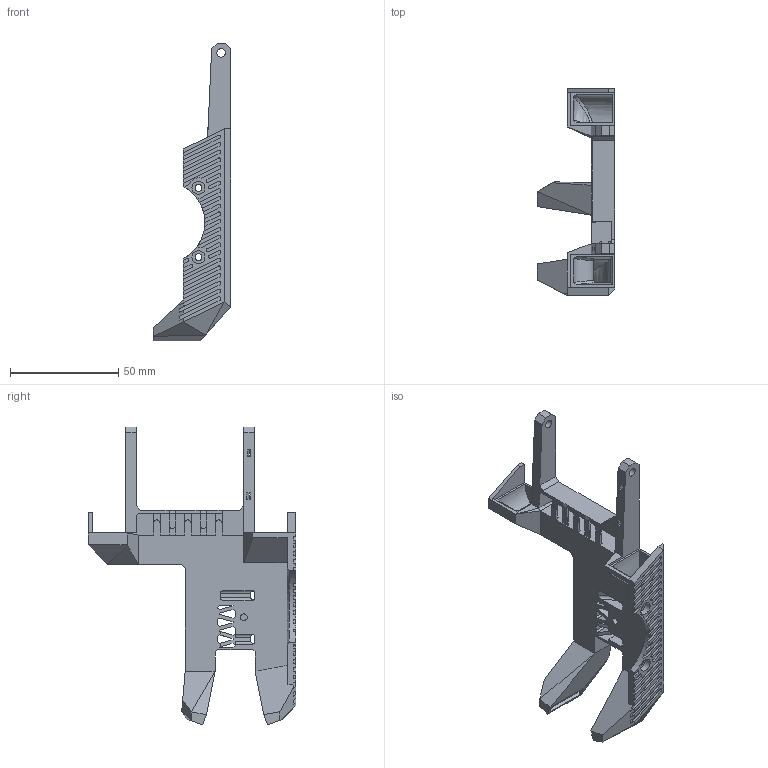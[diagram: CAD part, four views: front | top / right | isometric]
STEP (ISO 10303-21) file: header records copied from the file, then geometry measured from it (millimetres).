
FILE_DESCRIPTION(/* description */ ('CAx-IF Rec.Pracs.---Representation and Presentation of Product Manufacturing Information (PMI)---4.0---2014-10-13','CAx-IF Rec.Pracs.---3D Tessellated Geometry---0.4---2014-09-14','2;1'),/* implementation_level */ '2;1');
FILE_NAME(/* name */ 'B1R5015R',/* time_stamp */ '2025-06-16T17:35:47+03:00',/* author */ (''),/* organization */ (''),/* preprocessor_version */ 'ST-DEVELOPER v20',/* originating_system */ 'SIEMENS PLM Software NX2406.6001',/* authorisation */ $);
FILE_SCHEMA (('AP242_MANAGED_MODEL_BASED_3D_ENGINEERING_MIM_LF { 1 0 10303 442 3 1 4 }'));
Length unit declared in the file: millimetre
Products named in the file (1): B1R5015R
Bounding box: 36 x 95.85 x 137.62 mm (x, y, z)
Volume: 41512.9 mm3; surface area: 32966 mm2
Topology: 1 solids, 1 shells, 602 faces, 1661 edges, 1084 vertices
Faces by surface type: plane 456, cylinder 98, bspline 47, cone 1
Full cylindrical faces by diameter (mm): 1 x2, 3.2 x3, 4 x2, 6 x3
Entity records: 21233 total; most frequent: CARTESIAN_POINT 6089, ORIENTED_EDGE 3290, DIRECTION 2831, EDGE_CURVE 1645, LINE 1289, VECTOR 1289, VERTEX_POINT 1078, AXIS2_PLACEMENT_3D 771
